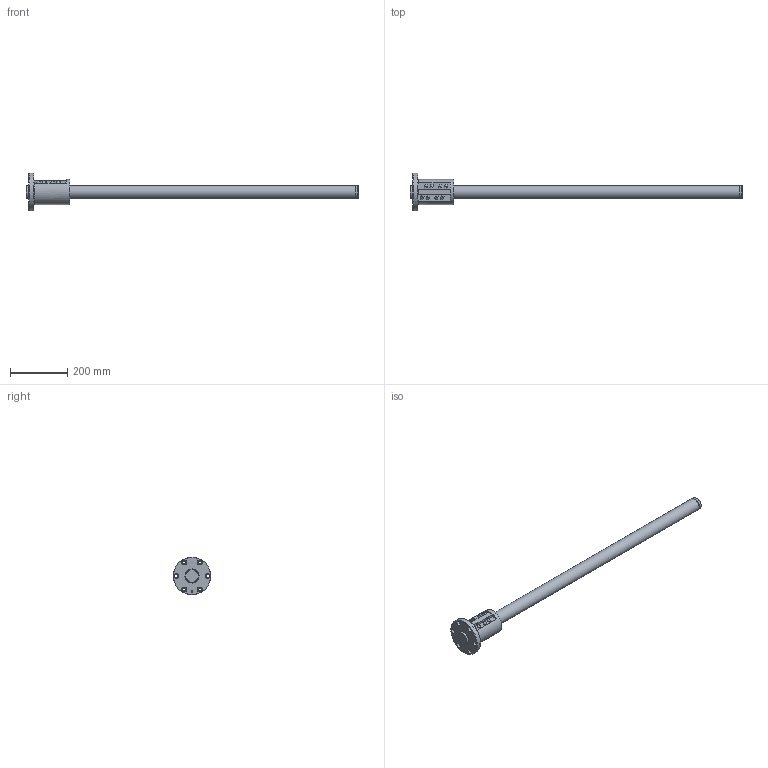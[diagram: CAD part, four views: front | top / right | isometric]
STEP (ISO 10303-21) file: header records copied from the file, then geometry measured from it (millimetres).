
FILE_DESCRIPTION( ( 'STEP AP203' ), ' ' );
FILE_NAME( 'p:/temp/worker_18/2844_3028/app_48_12018011815534694546000818fa3fd_000000_00_00_000000/format_0/BIF4510-6RRG0+1164LC0_10000.stp', '2018-01-18T14:53:48', ( '' ), ( '' ), ' ', 'PARTsolutions', ' ' );
FILE_SCHEMA( ( 'CONFIG_CONTROL_DESIGN' ) );
Length unit declared in the file: millimetre
Products named in the file (3): BIF4510-6RRG0+1164LC0_10000; _BIF 4510-6RR1000500 Shaft; _BIF 4510-6RR Nut
Assembly tree (2 placements, depth 2):
  BIF4510-6RRG0+1164LC0_10000
    _BIF 4510-6RR1000500 Shaft
    _BIF 4510-6RR Nut
Bounding box: 1164 x 132 x 132 mm (x, y, z)
Volume: 2567294.8 mm3; surface area: 263330 mm2
Topology: 2 solids, 2 shells, 82 faces, 186 edges, 121 vertices
Faces by surface type: cylinder 39, plane 27, cone 8, torus 8
Full cylindrical faces by diameter (mm): 4.917 x1, 6.2 x2, 11 x6, 17.5 x6, 44.5 x2, 45 x4, 49.2 x2, 88 x1, 132 x1
Entity records: 2870 total; most frequent: CARTESIAN_POINT 1007, DIRECTION 384, ORIENTED_EDGE 294, AXIS2_PLACEMENT_3D 168, EDGE_CURVE 147, EDGE_LOOP 144, VERTEX_POINT 115, FACE_OUTER_BOUND 107
